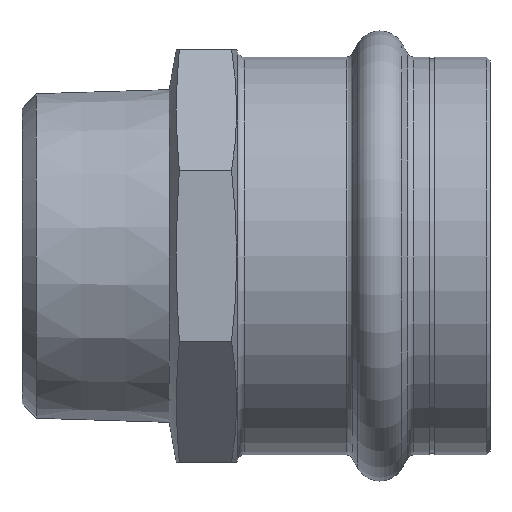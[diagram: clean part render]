
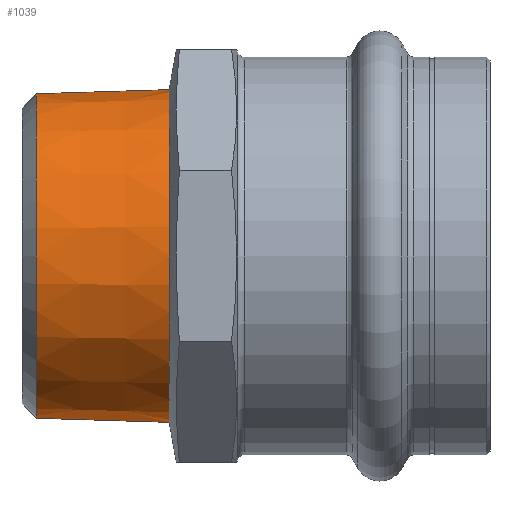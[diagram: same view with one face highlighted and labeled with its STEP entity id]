
A CAD part, left-side view. The second image highlights one B-rep face of the part: STEP entity #1039.
In plain terms, the highlighted conical face has half-angle 1.78 degrees and reference radius 24.172 mm.
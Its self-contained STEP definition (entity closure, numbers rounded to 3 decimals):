
#128 = CARTESIAN_POINT ( 'NONE',  ( 0., 65.929, 23.571 ) ) ;
#177 = EDGE_CURVE ( 'NONE', #514, #900, #241, .T. ) ;
#181 = VERTEX_POINT ( 'NONE', #854 ) ;
#218 = VECTOR ( 'NONE', #1234, 1000. ) ;
#241 = LINE ( 'NONE', #826, #461 ) ;
#290 = CARTESIAN_POINT ( 'NONE',  ( 0., 65.929, 0. ) ) ;
#304 = EDGE_LOOP ( 'NONE', ( #413, #1037, #916, #504 ) ) ;
#369 = AXIS2_PLACEMENT_3D ( 'NONE', #1331, #642, #1598 ) ;
#399 = DIRECTION ( 'NONE',  ( 0., -1., 0. ) ) ;
#413 = ORIENTED_EDGE ( 'NONE', *, *, #177, .F. ) ;
#456 = EDGE_CURVE ( 'NONE', #900, #181, #649, .T. ) ;
#461 = VECTOR ( 'NONE', #1006, 1000. ) ;
#469 = CARTESIAN_POINT ( 'NONE',  ( 0., 46.6, 24.172 ) ) ;
#504 = ORIENTED_EDGE ( 'NONE', *, *, #456, .F. ) ;
#514 = VERTEX_POINT ( 'NONE', #128 ) ;
#521 = CARTESIAN_POINT ( 'NONE',  ( 0., 65.929, -23.571 ) ) ;
#568 = EDGE_CURVE ( 'NONE', #1547, #181, #915, .T. ) ;
#642 = DIRECTION ( 'NONE',  ( 0., -1., 0. ) ) ;
#649 = CIRCLE ( 'NONE', #714, 24.172 ) ;
#714 = AXIS2_PLACEMENT_3D ( 'NONE', #1226, #399, #1354 ) ;
#777 = FACE_OUTER_BOUND ( 'NONE', #304, .T. ) ;
#790 = CARTESIAN_POINT ( 'NONE',  ( 0., 46.6, -24.172 ) ) ;
#826 = CARTESIAN_POINT ( 'NONE',  ( 0., 46.6, 24.172 ) ) ;
#854 = CARTESIAN_POINT ( 'NONE',  ( 0., 46.6, -24.172 ) ) ;
#900 = VERTEX_POINT ( 'NONE', #469 ) ;
#915 = LINE ( 'NONE', #790, #218 ) ;
#916 = ORIENTED_EDGE ( 'NONE', *, *, #568, .T. ) ;
#1006 = DIRECTION ( 'NONE',  ( 0., -1., 0.031 ) ) ;
#1037 = ORIENTED_EDGE ( 'NONE', *, *, #1645, .T. ) ;
#1039 = ADVANCED_FACE ( 'NONE', ( #777 ), #1052, .T. ) ;
#1052 = CONICAL_SURFACE ( 'NONE', #369, 24.172, 0.031 ) ;
#1226 = CARTESIAN_POINT ( 'NONE',  ( 0., 46.6, 0. ) ) ;
#1234 = DIRECTION ( 'NONE',  ( 0., -1., -0.031 ) ) ;
#1286 = AXIS2_PLACEMENT_3D ( 'NONE', #290, #1340, #1420 ) ;
#1331 = CARTESIAN_POINT ( 'NONE',  ( 0., 46.6, 0. ) ) ;
#1340 = DIRECTION ( 'NONE',  ( 0., -1., 0. ) ) ;
#1354 = DIRECTION ( 'NONE',  ( 0., 0., -1. ) ) ;
#1388 = CIRCLE ( 'NONE', #1286, 23.571 ) ;
#1420 = DIRECTION ( 'NONE',  ( 0., 0., -1. ) ) ;
#1547 = VERTEX_POINT ( 'NONE', #521 ) ;
#1598 = DIRECTION ( 'NONE',  ( 0., 0., -1. ) ) ;
#1645 = EDGE_CURVE ( 'NONE', #514, #1547, #1388, .T. ) ;
